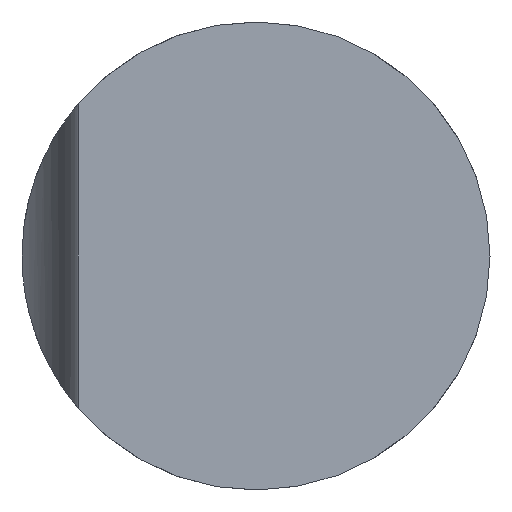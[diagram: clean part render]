
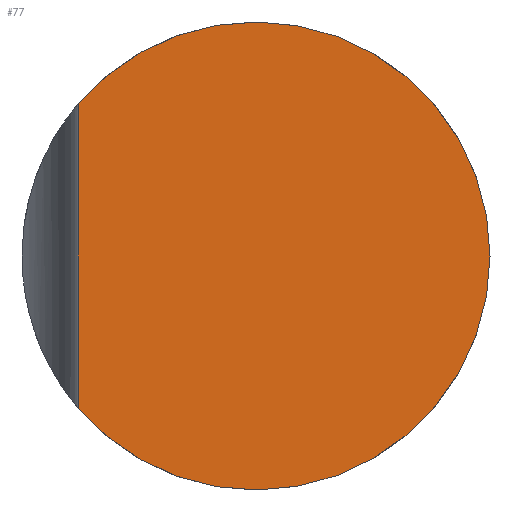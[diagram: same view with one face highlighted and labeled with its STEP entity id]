
A CAD part, left-side view. The second image highlights one B-rep face of the part: STEP entity #77.
In plain terms, the highlighted planar face has unit normal (-1, 0, 0).
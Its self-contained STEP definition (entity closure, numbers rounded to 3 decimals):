
#77=ADVANCED_FACE('',(#118),#117,.T.);
#117=PLANE('',#323);
#118=FACE_OUTER_BOUND('',#324,.T.);
#320=CARTESIAN_POINT('',(231.143,222.524,-21.757));
#321=DIRECTION('',(-1.,0.,0.));
#322=DIRECTION('',(0.,-1.,0.));
#323=AXIS2_PLACEMENT_3D('',#320,#321,#322);
#324=EDGE_LOOP('',(#486,#487,#488));
#486=ORIENTED_EDGE('',*,*,#569,.F.);
#487=ORIENTED_EDGE('',*,*,#570,.F.);
#488=ORIENTED_EDGE('',*,*,#565,.T.);
#565=EDGE_CURVE('',#631,#624,#632,.T.);
#569=EDGE_CURVE('',#658,#624,#659,.T.);
#570=EDGE_CURVE('',#631,#658,#665,.T.);
#624=VERTEX_POINT('',#935);
#631=VERTEX_POINT('',#939);
#632=LINE('',#940,#941);
#658=VERTEX_POINT('',#956);
#659=CIRCLE('',#960,12.5);
#665=CIRCLE('',#964,12.5);
#935=CARTESIAN_POINT('',(231.143,219.758,-8.124));
#939=CARTESIAN_POINT('',(231.143,219.758,8.124));
#940=CARTESIAN_POINT('',(231.143,219.758,8.124));
#941=VECTOR('',#942,16.248);
#942=DIRECTION('',(0.,0.,-1.));
#956=CARTESIAN_POINT('',(231.143,197.758,0.));
#957=CARTESIAN_POINT('',(231.143,210.258,0.));
#958=DIRECTION('',(1.,0.,0.));
#959=DIRECTION('',(0.,0.76,0.65));
#960=AXIS2_PLACEMENT_3D('',#957,#958,#959);
#961=CARTESIAN_POINT('',(231.143,210.258,0.));
#962=DIRECTION('',(1.,0.,0.));
#963=DIRECTION('',(0.,0.76,0.65));
#964=AXIS2_PLACEMENT_3D('',#961,#962,#963);
